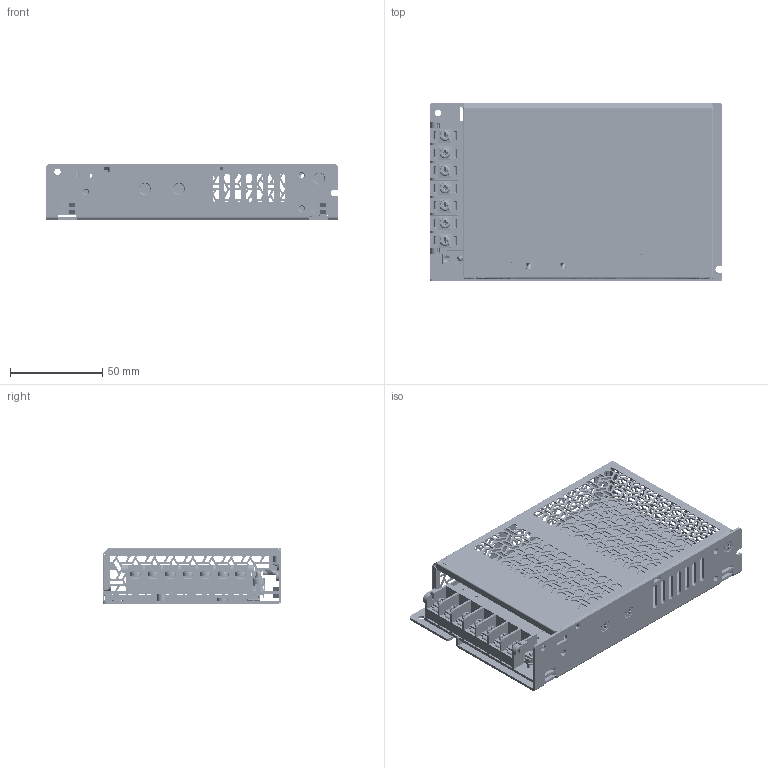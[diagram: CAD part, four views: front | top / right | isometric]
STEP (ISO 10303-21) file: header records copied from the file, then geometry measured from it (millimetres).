
FILE_DESCRIPTION((''),'2;1');
FILE_NAME('NC','2022-08-26T',('pe202'),(''),'PRO/ENGINEER BY PARAMETRIC TECHNOLOGY CORPORATION, 2014000','PRO/ENGINEER BY PARAMETRIC TECHNOLOGY CORPORATION, 2014000','');
FILE_SCHEMA(('CONFIG_CONTROL_DESIGN','GEOMETRIC_VALIDATION_PROPERTIES_MIM'));
Products named in the file (1): NC
Bounding box: 159 x 97 x 30 mm (x, y, z)
Volume: 46831 mm3; surface area: 112408 mm2
Topology: 6 solids, 39 shells, 7654 faces, 21980 edges, 14370 vertices
Faces by surface type: bspline 4553, revolution 3101
Entity records: 338498 total; most frequent: CARTESIAN_POINT 138140, ORIENTED_EDGE 43854, DIRECTION 29808, EDGE_CURVE 21964, VECTOR 14525, LINE 14525, VERTEX_POINT 14369, EDGE_LOOP 9101
